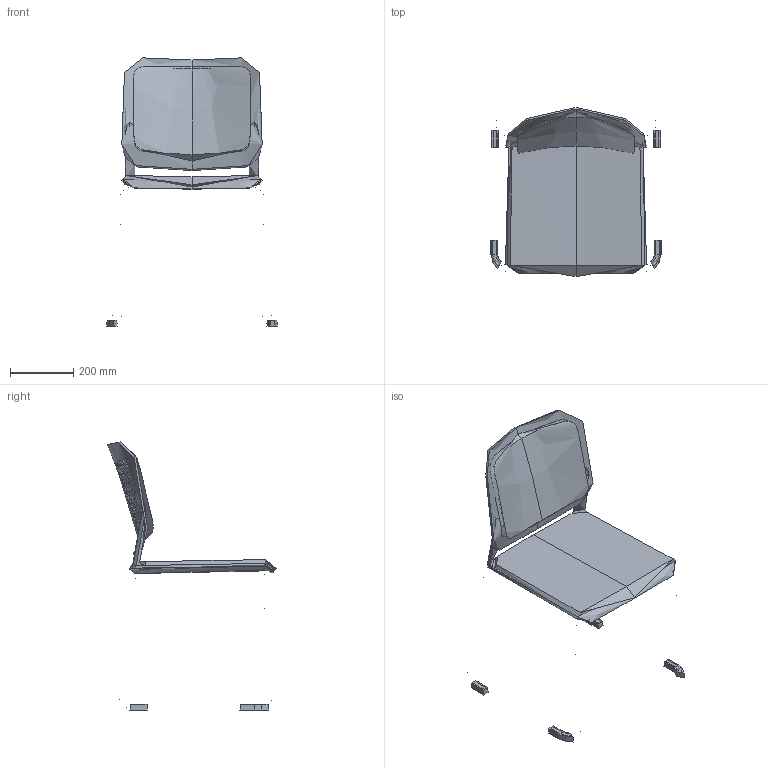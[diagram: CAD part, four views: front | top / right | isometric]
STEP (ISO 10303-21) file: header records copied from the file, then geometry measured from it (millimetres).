
FILE_DESCRIPTION(/* description */ (''),/* implementation_level */ '2;1');
FILE_NAME(/* name */ 'Time 162',/* time_stamp */ '2019-11-22T22:08:56+01:00',/* author */ (''),/* organization */ (''),/* preprocessor_version */ 'ST-DEVELOPER v16.5',/* originating_system */ '',/* authorisation */ '');
FILE_SCHEMA (('AUTOMOTIVE_DESIGN'));
Length unit declared in the file: millimetre
Products named in the file (1): Document
Bounding box: 537.92 x 533.25 x 846.75 mm (x, y, z)
Volume: 4581172.8 mm3; surface area: 1779912.1 mm2
Topology: 5 solids, 12 shells, 1111 faces, 3266 edges, 2143 vertices
Faces by surface type: bspline 625, plane 486
Entity records: 62657 total; most frequent: CARTESIAN_POINT 41758, ORIENTED_EDGE 6508, EDGE_CURVE 3263, B_SPLINE_CURVE_WITH_KNOTS 3112, VERTEX_POINT 2141, EDGE_LOOP 1559, ADVANCED_FACE 1111, FACE_OUTER_BOUND 1111
